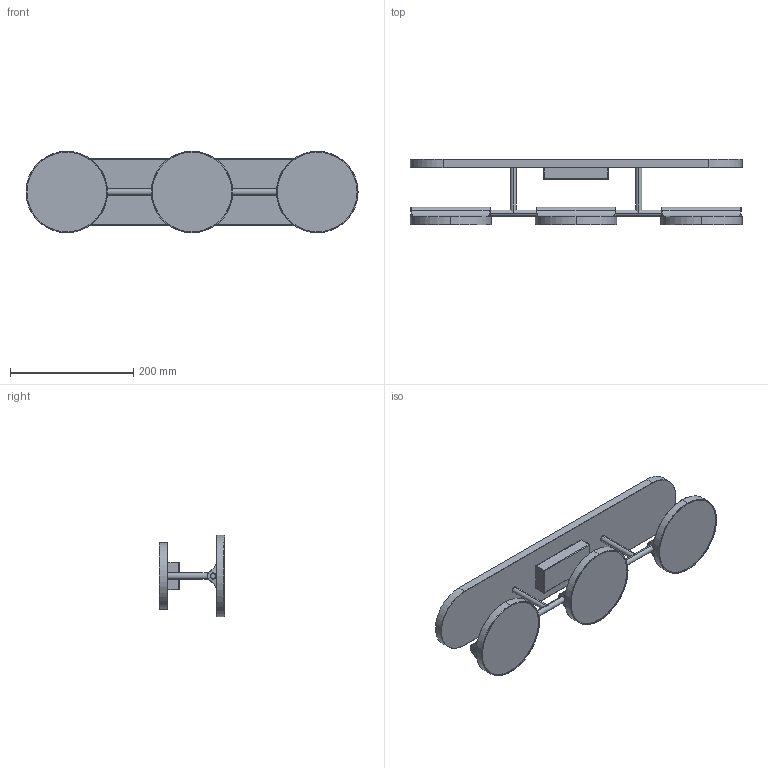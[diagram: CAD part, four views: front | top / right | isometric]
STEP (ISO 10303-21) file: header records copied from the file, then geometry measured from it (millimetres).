
FILE_DESCRIPTION (( 'STEP AP203' ), '1' );
FILE_NAME ('199-H_ASSEMBLY.STEP', '2023-08-04T15:49:51', ( '' ), ( '' ), 'SwSTEP 2.0', 'SolidWorks 2018', '' );
FILE_SCHEMA (( 'CONFIG_CONTROL_DESIGN' ));
Length unit declared in the file: inch
Products named in the file (3): 199-H_ASSEMBLY; xx-CH flat_Angled; 119-H-driver_update
Assembly tree (4 placements, depth 2):
  199-H_ASSEMBLY
    119-H-driver_update
    xx-CH flat_Angled  x3
Bounding box: 538 x 106.5 x 132 mm (x, y, z)
Volume: 1507665.8 mm3; surface area: 377248.2 mm2
Topology: 11 solids, 11 shells, 168 faces, 358 edges, 211 vertices
Faces by surface type: cylinder 61, torus 39, plane 34, bspline 30, sphere 4
Entity records: 3927 total; most frequent: CARTESIAN_POINT 1740, DIRECTION 420, ORIENTED_EDGE 356, AXIS2_PLACEMENT_3D 183, EDGE_CURVE 178, VERTEX_POINT 105, CIRCLE 100, EDGE_LOOP 93
